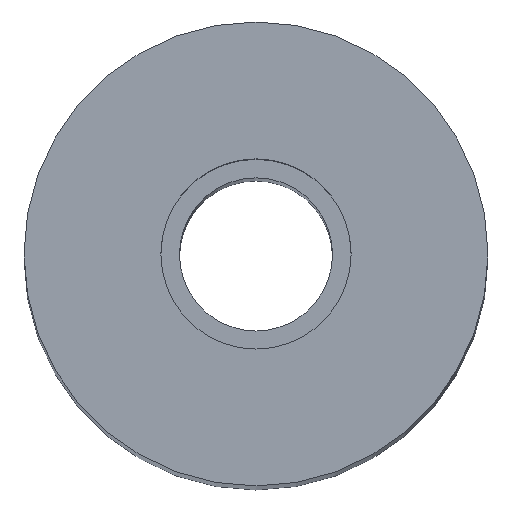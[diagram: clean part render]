
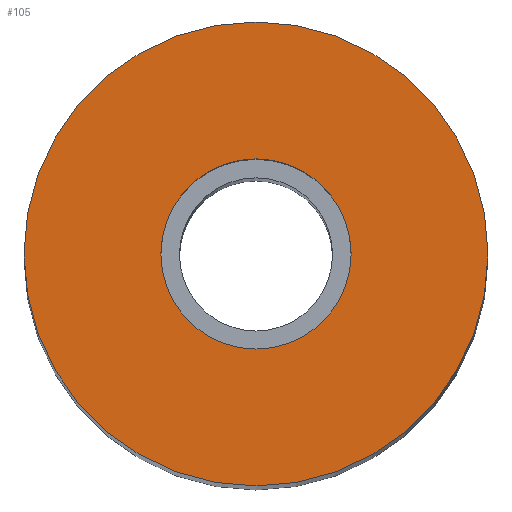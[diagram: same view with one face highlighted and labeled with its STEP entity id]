
A CAD part, top view. The second image highlights one B-rep face of the part: STEP entity #105.
In plain terms, the highlighted planar face has unit normal (0, 0, 1).
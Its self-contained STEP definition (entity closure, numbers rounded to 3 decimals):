
#21 = EDGE_CURVE('',#22,#22,#24,.T.);
#22 = VERTEX_POINT('',#23);
#23 = CARTESIAN_POINT('',(5.,0.,50.));
#24 = SURFACE_CURVE('',#25,(#30,#42),.PCURVE_S1.);
#25 = CIRCLE('',#26,5.);
#26 = AXIS2_PLACEMENT_3D('',#27,#28,#29);
#27 = CARTESIAN_POINT('',(0.,0.,50.));
#28 = DIRECTION('',(0.,0.,1.));
#29 = DIRECTION('',(1.,0.,-0.));
#30 = PCURVE('',#31,#36);
#31 = CYLINDRICAL_SURFACE('',#32,5.);
#32 = AXIS2_PLACEMENT_3D('',#33,#34,#35);
#33 = CARTESIAN_POINT('',(0.,0.,0.));
#34 = DIRECTION('',(0.,0.,1.));
#35 = DIRECTION('',(1.,0.,-0.));
#36 = DEFINITIONAL_REPRESENTATION('',(#37),#41);
#37 = LINE('',#38,#39);
#38 = CARTESIAN_POINT('',(0.,50.));
#39 = VECTOR('',#40,1.);
#40 = DIRECTION('',(1.,0.));
#41 = ( GEOMETRIC_REPRESENTATION_CONTEXT(2) 
PARAMETRIC_REPRESENTATION_CONTEXT() REPRESENTATION_CONTEXT('2D SPACE',''
  ) );
#42 = PCURVE('',#43,#48);
#43 = PLANE('',#44);
#44 = AXIS2_PLACEMENT_3D('',#45,#46,#47);
#45 = CARTESIAN_POINT('',(0.,0.,50.));
#46 = DIRECTION('',(0.,0.,1.));
#47 = DIRECTION('',(1.,0.,-0.));
#48 = DEFINITIONAL_REPRESENTATION('',(#49),#53);
#49 = CIRCLE('',#50,5.);
#50 = AXIS2_PLACEMENT_2D('',#51,#52);
#51 = CARTESIAN_POINT('',(0.,0.));
#52 = DIRECTION('',(1.,0.));
#53 = ( GEOMETRIC_REPRESENTATION_CONTEXT(2) 
PARAMETRIC_REPRESENTATION_CONTEXT() REPRESENTATION_CONTEXT('2D SPACE',''
  ) );
#105 = ADVANCED_FACE('',(#106,#109),#43,.T.);
#106 = FACE_BOUND('',#107,.T.);
#107 = EDGE_LOOP('',(#108));
#108 = ORIENTED_EDGE('',*,*,#21,.T.);
#109 = FACE_BOUND('',#110,.T.);
#110 = EDGE_LOOP('',(#111));
#111 = ORIENTED_EDGE('',*,*,#112,.F.);
#112 = EDGE_CURVE('',#113,#113,#115,.T.);
#113 = VERTEX_POINT('',#114);
#114 = CARTESIAN_POINT('',(2.05,0.,50.));
#115 = SURFACE_CURVE('',#116,(#121,#128),.PCURVE_S1.);
#116 = CIRCLE('',#117,2.05);
#117 = AXIS2_PLACEMENT_3D('',#118,#119,#120);
#118 = CARTESIAN_POINT('',(0.,0.,50.));
#119 = DIRECTION('',(0.,0.,1.));
#120 = DIRECTION('',(1.,0.,-0.));
#121 = PCURVE('',#43,#122);
#122 = DEFINITIONAL_REPRESENTATION('',(#123),#127);
#123 = CIRCLE('',#124,2.05);
#124 = AXIS2_PLACEMENT_2D('',#125,#126);
#125 = CARTESIAN_POINT('',(0.,0.));
#126 = DIRECTION('',(1.,0.));
#127 = ( GEOMETRIC_REPRESENTATION_CONTEXT(2) 
PARAMETRIC_REPRESENTATION_CONTEXT() REPRESENTATION_CONTEXT('2D SPACE',''
  ) );
#128 = PCURVE('',#129,#134);
#129 = CYLINDRICAL_SURFACE('',#130,2.05);
#130 = AXIS2_PLACEMENT_3D('',#131,#132,#133);
#131 = CARTESIAN_POINT('',(0.,0.,44.));
#132 = DIRECTION('',(0.,0.,1.));
#133 = DIRECTION('',(1.,0.,-0.));
#134 = DEFINITIONAL_REPRESENTATION('',(#135),#139);
#135 = LINE('',#136,#137);
#136 = CARTESIAN_POINT('',(0.,6.));
#137 = VECTOR('',#138,1.);
#138 = DIRECTION('',(1.,0.));
#139 = ( GEOMETRIC_REPRESENTATION_CONTEXT(2) 
PARAMETRIC_REPRESENTATION_CONTEXT() REPRESENTATION_CONTEXT('2D SPACE',''
  ) );
